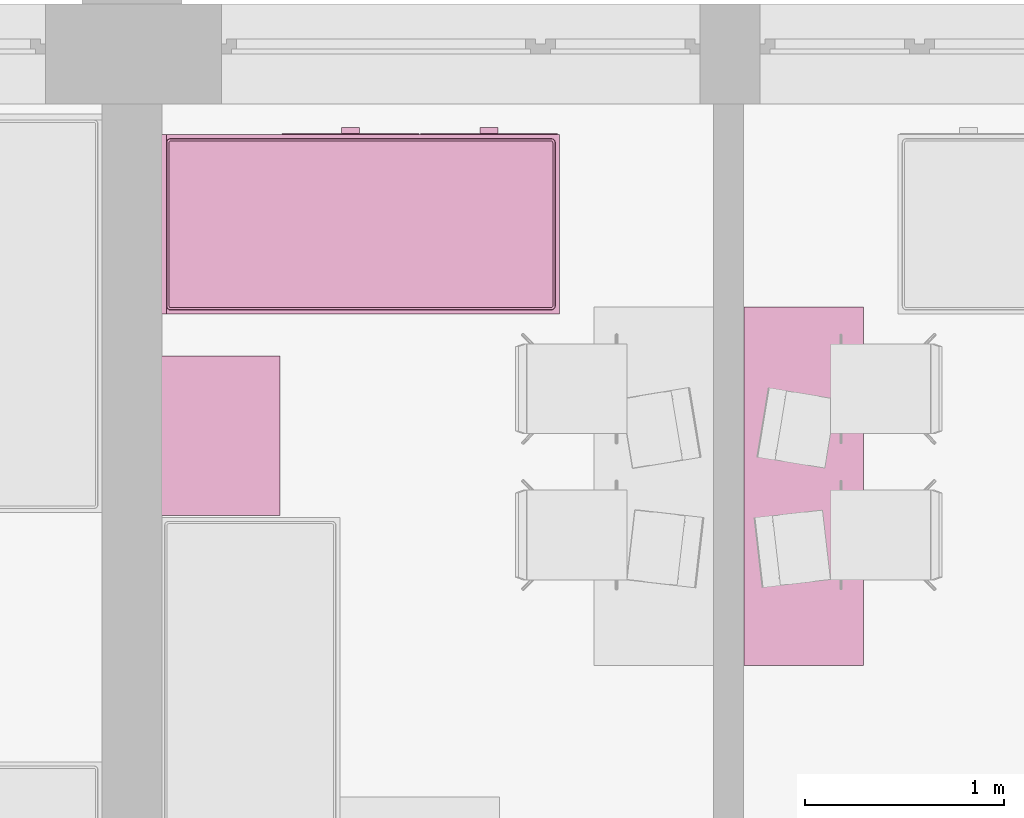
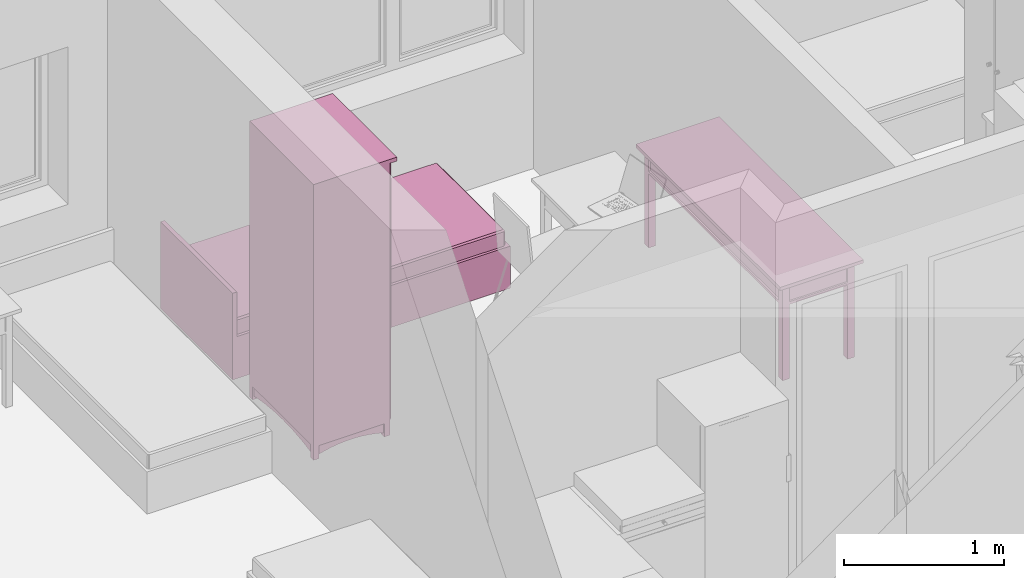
# One storey, part 93 of 172: 3 furnishings.
"""IFC2X3 building model written with IfcOpenShell, lengths in millimetres."""

from ifc_helpers import new_model, entity, si_unit, converted_unit, money_unit, direction, frame, origin_with_axes, place, context, subcontext, project, spatial, faceted_brep, source, transform, mapped, material, material_list, type_object, element, save


model = new_model("IFC2X3")

# Units and contexts
model_context = context("Model", 3, precision=1e-05, world=origin_with_axes(), true_north=direction((0.0, 1.0)))
body_context = subcontext(model_context, "Body", "Model", "MODEL_VIEW")
ifc_project = project(units=[si_unit("LENGTHUNIT", "METRE", prefix="MILLI"), si_unit("AREAUNIT", "SQUARE_METRE"), si_unit("VOLUMEUNIT", "CUBIC_METRE"), converted_unit("PLANEANGLEUNIT", "DEGREE", entity("IfcPlaneAngleMeasure", 0.0174532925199), si_unit("PLANEANGLEUNIT", "RADIAN"), dimensions=[0, 0, 0, 0, 0, 0, 0]), si_unit("SOLIDANGLEUNIT", "STERADIAN"), money_unit("USD"), converted_unit("TIMEUNIT", "Year", entity("IfcTimeMeasure", 31556926.0), si_unit("TIMEUNIT", "SECOND"), dimensions=[0, 0, 0, 0, 0, 0, 0]), si_unit("MASSUNIT", "GRAM"), si_unit("THERMODYNAMICTEMPERATUREUNIT", "DEGREE_CELSIUS"), si_unit("LUMINOUSINTENSITYUNIT", "LUMEN")], contexts=[model_context])

# Site, building, storey
site_placement = place(None, origin_with_axes())
site = spatial("IfcSite", under=ifc_project, at=site_placement, Name="Site", CompositionType="ELEMENT")
building_placement = place(site_placement, origin_with_axes())
building = spatial("IfcBuilding", under=site, at=building_placement, Name="Building", CompositionType="ELEMENT")
storey_placement = place(building_placement, frame((0.0, 0.0, 3200.0), z_axis=(0.0, 0.0, 1.0), x_axis=(1.0, 0.0, 0.0)))
storey = spatial("IfcBuildingStorey", under=building, at=storey_placement, Name="3KORRUS", CompositionType="ELEMENT", Elevation=3200.0)

# Furnishings
ifc_material = material(Name="Background")
ifc_material_list = material_list([ifc_material])
furnishing_element_type_1 = type_object("IfcFurnishingElementType", Name="Bed 19")
shared_shape_1 = source(origin_with_axes(), body_context, "Body", "Brep", [
    faceted_brep([(900.0, 1970.0, 0.0), (0.0, 1970.0, 0.0), (0.0, 2000.0, 0.0), (900.0, 2000.0, 0.0), (900.0, 1970.0, 660.0), (0.0, 1970.0, 660.0), (0.0, 2000.0, 660.0), (900.0, 2000.0, 660.0)], [[[0, 1, 2, 3]], [[1, 0, 4, 5]], [[2, 1, 5, 6]], [[3, 2, 6, 7]], [[0, 3, 7, 4]], [[5, 4, 7, 6]]]),
    faceted_brep([(900.0, 0.0, 0.0), (0.0, 0.0, 0.0), (0.0, 1970.0, 0.0), (900.0, 1970.0, 0.0), (900.0, 0.0, 320.0), (0.0, 0.0, 320.0), (0.0, 1970.0, 320.0), (900.0, 1970.0, 320.0)], [[[0, 1, 2, 3]], [[1, 0, 4, 5]], [[2, 1, 5, 6]], [[3, 2, 6, 7]], [[0, 3, 7, 4]], [[5, 4, 7, 6]]]),
    faceted_brep([(905.0, 10.0, 30.0), (900.0, 10.0, 30.0), (900.0, 695.0, 30.0), (905.0, 695.0, 30.0), (905.0, 10.0, 290.0), (900.0, 10.0, 290.0), (900.0, 695.0, 290.0), (905.0, 695.0, 290.0)], [[[0, 1, 2, 3]], [[1, 0, 4, 5]], [[2, 1, 5, 6]], [[3, 2, 6, 7]], [[0, 3, 7, 4]], [[5, 4, 7, 6]]]),
    faceted_brep([(935.0, 307.5, 150.0), (905.0, 307.5, 150.0), (905.0, 397.5, 150.0), (935.0, 397.5, 150.0), (935.0, 307.5, 170.0), (905.0, 307.5, 170.0), (905.0, 397.5, 170.0), (935.0, 397.5, 170.0)], [[[0, 1, 2, 3]], [[1, 0, 4, 5]], [[2, 1, 5, 6]], [[3, 2, 6, 7]], [[0, 3, 7, 4]], [[5, 4, 7, 6]]]),
    faceted_brep([(905.0, 705.0, 30.0), (900.0, 705.0, 30.0), (900.0, 1390.0, 30.0), (905.0, 1390.0, 30.0), (905.0, 705.0, 290.0), (900.0, 705.0, 290.0), (900.0, 1390.0, 290.0), (905.0, 1390.0, 290.0)], [[[0, 1, 2, 3]], [[1, 0, 4, 5]], [[2, 1, 5, 6]], [[3, 2, 6, 7]], [[0, 3, 7, 4]], [[5, 4, 7, 6]]]),
    faceted_brep([(935.0, 1002.5, 150.0), (905.0, 1002.5, 150.0), (905.0, 1092.5, 150.0), (935.0, 1092.5, 150.0), (935.0, 1002.5, 170.0), (905.0, 1002.5, 170.0), (905.0, 1092.5, 170.0), (935.0, 1092.5, 170.0)], [[[0, 1, 2, 3]], [[1, 0, 4, 5]], [[2, 1, 5, 6]], [[3, 2, 6, 7]], [[0, 3, 7, 4]], [[5, 4, 7, 6]]]),
    faceted_brep([(20.0, 40.0, 350.0), (20.0, 1950.0, 350.0), (21.522, 1957.654, 350.0), (25.858, 1964.142, 350.0), (32.346, 1968.478, 350.0), (40.0, 1970.0, 350.0), (860.0, 1970.0, 350.0), (867.654, 1968.478, 350.0), (874.142, 1964.142, 350.0), (878.478, 1957.654, 350.0), (880.0, 1950.0, 350.0), (880.0, 40.0, 350.0), (878.478, 32.346, 350.0), (874.142, 25.858, 350.0), (867.654, 21.522, 350.0), (860.0, 20.0, 350.0), (40.0, 20.0, 350.0), (32.346, 21.522, 350.0), (25.858, 25.858, 350.0), (21.522, 32.346, 350.0), (20.0, 40.0, 420.0), (20.0, 1950.0, 420.0), (21.522, 1957.654, 420.0), (25.858, 1964.142, 420.0), (32.346, 1968.478, 420.0), (40.0, 1970.0, 420.0), (860.0, 1970.0, 420.0), (867.654, 1968.478, 420.0), (874.142, 1964.142, 420.0), (878.478, 1957.654, 420.0), (880.0, 1950.0, 420.0), (880.0, 40.0, 420.0), (878.478, 32.346, 420.0), (874.142, 25.858, 420.0), (867.654, 21.522, 420.0), (860.0, 20.0, 420.0), (40.0, 20.0, 420.0), (32.346, 21.522, 420.0), (25.858, 25.858, 420.0), (21.522, 32.346, 420.0), (21.522, 40.15, 427.654), (21.522, 1949.85, 427.654), (22.956, 1957.06, 427.654), (26.955, 1963.045, 427.654), (32.94, 1967.044, 427.654), (40.15, 1968.478, 427.654), (859.85, 1968.478, 427.654), (867.06, 1967.044, 427.654), (873.045, 1963.045, 427.654), (877.044, 1957.06, 427.654), (878.478, 1949.85, 427.654), (878.478, 40.15, 427.654), (877.044, 32.94, 427.654), (873.045, 26.955, 427.654), (867.06, 22.956, 427.654), (859.85, 21.522, 427.654), (40.15, 21.522, 427.654), (32.94, 22.956, 427.654), (26.955, 26.955, 427.654), (22.956, 32.94, 427.654), (32.346, 41.216, 438.478), (32.346, 1948.784, 438.478), (33.152, 1952.836, 438.478), (34.759, 1955.241, 438.478), (37.164, 1956.848, 438.478), (41.216, 1957.654, 438.478), (858.784, 1957.654, 438.478), (862.836, 1956.848, 438.478), (865.241, 1955.241, 438.478), (866.848, 1952.836, 438.478), (867.654, 1948.784, 438.478), (867.654, 41.216, 438.478), (866.848, 37.164, 438.478), (865.241, 34.759, 438.478), (862.836, 33.152, 438.478), (858.784, 32.346, 438.478), (41.216, 32.346, 438.478), (37.164, 33.152, 438.478), (34.759, 34.759, 438.478), (33.152, 37.164, 438.478), (40.0, 41.97, 440.0), (40.0, 1948.03, 440.0), (40.327, 1949.673, 440.0), (40.0, 1950.0, 439.924), (41.97, 1950.0, 440.0), (858.03, 1950.0, 440.0), (859.673, 1949.673, 440.0), (860.0, 1950.0, 439.924), (860.0, 1948.03, 440.0), (860.0, 41.97, 440.0), (859.673, 40.327, 440.0), (860.0, 40.0, 439.924), (858.03, 40.0, 440.0), (41.97, 40.0, 440.0), (40.327, 40.327, 440.0), (40.0, 40.0, 439.924)], [[[0, 1, 2, 3, 4, 5, 6, 7, 8, 9, 10, 11, 12, 13, 14, 15, 16, 17, 18, 19]], [[1, 0, 20, 21]], [[2, 1, 21, 22]], [[3, 2, 22, 23]], [[4, 3, 23, 24]], [[5, 4, 24, 25]], [[6, 5, 25, 26]], [[7, 6, 26, 27]], [[8, 7, 27, 28]], [[9, 8, 28, 29]], [[10, 9, 29, 30]], [[11, 10, 30, 31]], [[12, 11, 31, 32]], [[13, 12, 32, 33]], [[14, 13, 33, 34]], [[15, 14, 34, 35]], [[16, 15, 35, 36]], [[17, 16, 36, 37]], [[18, 17, 37, 38]], [[19, 18, 38, 39]], [[0, 19, 39, 20]], [[21, 20, 40, 41]], [[22, 21, 41, 42]], [[23, 22, 42, 43]], [[24, 23, 43, 44]], [[25, 24, 44, 45]], [[26, 25, 45, 46]], [[27, 26, 46, 47]], [[28, 27, 47, 48]], [[29, 28, 48, 49]], [[30, 29, 49, 50]], [[31, 30, 50, 51]], [[32, 31, 51, 52]], [[33, 32, 52, 53]], [[34, 33, 53, 54]], [[35, 34, 54, 55]], [[36, 35, 55, 56]], [[37, 36, 56, 57]], [[38, 37, 57, 58]], [[39, 38, 58, 59]], [[20, 39, 59, 40]], [[41, 40, 60, 61]], [[42, 41, 61, 62]], [[43, 42, 62, 63]], [[44, 43, 63, 64]], [[45, 44, 64, 65]], [[46, 45, 65, 66]], [[47, 46, 66, 67]], [[48, 47, 67, 68]], [[49, 48, 68, 69]], [[50, 49, 69, 70]], [[51, 50, 70, 71]], [[52, 51, 71, 72]], [[53, 52, 72, 73]], [[54, 53, 73, 74]], [[55, 54, 74, 75]], [[56, 55, 75, 76]], [[57, 56, 76, 77]], [[58, 57, 77, 78]], [[59, 58, 78, 79]], [[40, 59, 79, 60]], [[61, 60, 80, 81]], [[62, 61, 81, 82, 83]], [[63, 62, 83]], [[64, 63, 83]], [[65, 64, 83, 82, 84]], [[66, 65, 84, 85]], [[67, 66, 85, 86, 87]], [[68, 67, 87]], [[69, 68, 87]], [[70, 69, 87, 86, 88]], [[71, 70, 88, 89]], [[72, 71, 89, 90, 91]], [[73, 72, 91]], [[74, 73, 91]], [[75, 74, 91, 90, 92]], [[76, 75, 92, 93]], [[77, 76, 93, 94, 95]], [[78, 77, 95]], [[79, 78, 95]], [[60, 79, 95, 94, 80]], [[81, 80, 94, 93, 92, 90, 89, 88, 86, 85, 84, 82]]]),
    faceted_brep([(20.0, 40.0, 350.0), (21.522, 32.346, 350.0), (25.858, 25.858, 350.0), (32.346, 21.522, 350.0), (40.0, 20.0, 350.0), (860.0, 20.0, 350.0), (867.654, 21.522, 350.0), (874.142, 25.858, 350.0), (878.478, 32.346, 350.0), (880.0, 40.0, 350.0), (880.0, 1950.0, 350.0), (878.478, 1957.654, 350.0), (874.142, 1964.142, 350.0), (867.654, 1968.478, 350.0), (860.0, 1970.0, 350.0), (40.0, 1970.0, 350.0), (32.346, 1968.478, 350.0), (25.858, 1964.142, 350.0), (21.522, 1957.654, 350.0), (20.0, 1950.0, 350.0), (20.0, 40.0, 320.0), (21.522, 32.346, 320.0), (25.858, 25.858, 320.0), (32.346, 21.522, 320.0), (40.0, 20.0, 320.0), (860.0, 20.0, 320.0), (867.654, 21.522, 320.0), (874.142, 25.858, 320.0), (878.478, 32.346, 320.0), (880.0, 40.0, 320.0), (880.0, 1950.0, 320.0), (878.478, 1957.654, 320.0), (874.142, 1964.142, 320.0), (867.654, 1968.478, 320.0), (860.0, 1970.0, 320.0), (40.0, 1970.0, 320.0), (32.346, 1968.478, 320.0), (25.858, 1964.142, 320.0), (21.522, 1957.654, 320.0), (20.0, 1950.0, 320.0)], [[[0, 1, 2, 3, 4, 5, 6, 7, 8, 9, 10, 11, 12, 13, 14, 15, 16, 17, 18, 19]], [[0, 20, 21, 1]], [[1, 21, 22, 2]], [[2, 22, 23, 3]], [[3, 23, 24, 4]], [[4, 24, 25, 5]], [[5, 25, 26, 6]], [[6, 26, 27, 7]], [[7, 27, 28, 8]], [[8, 28, 29, 9]], [[9, 29, 30, 10]], [[10, 30, 31, 11]], [[11, 31, 32, 12]], [[12, 32, 33, 13]], [[13, 33, 34, 14]], [[14, 34, 35, 15]], [[15, 35, 36, 16]], [[16, 36, 37, 17]], [[17, 37, 38, 18]], [[18, 38, 39, 19]], [[19, 39, 20, 0]], [[20, 39, 38, 37, 36, 35, 34, 33, 32, 31, 30, 29, 28, 27, 26, 25, 24, 23, 22, 21]]]),
])
furnishing_1_placement = place(storey_placement, frame((-39996.5850987, -6193.677052, 0.0), z_axis=(0.0, 0.0, 1.0), x_axis=(0.0, 1.0, 0.0)))
element("IfcFurnishingElement", 1, at=furnishing_1_placement, inside=storey, type_object=furnishing_element_type_1, material=ifc_material_list, Name="FU - 013", context=body_context, shape_type="MappedRepresentation", body=[
    mapped(shared_shape_1, transform((0.0, 0.0, 0.0))),
])
furnishing_element_type_2 = type_object("IfcFurnishingElementType", Name="Cupboard 19")
shared_shape_2 = source(origin_with_axes(), body_context, "Body", "Brep", [
    faceted_brep([(780.0, 600.0, 120.0), (780.0, 600.0, 2050.0), (780.0, 580.0, 2050.0), (780.0, 580.0, 120.0), (20.0, 600.0, 120.0), (20.0, 600.0, 2050.0), (20.0, 580.0, 2050.0), (20.0, 580.0, 120.0)], [[[0, 1, 2, 3]], [[4, 5, 1, 0]], [[1, 5, 6, 2]], [[3, 2, 6, 7]], [[0, 3, 7, 4]], [[7, 6, 5, 4]]]),
    faceted_brep([(0.0, 50.0, 100.0), (0.0, 600.0, 100.0), (20.0, 600.0, 100.0), (20.0, 50.0, 100.0), (0.0, 50.0, 2070.0), (0.0, 600.0, 2070.0), (20.0, 600.0, 2070.0), (20.0, 50.0, 2070.0)], [[[0, 1, 2, 3]], [[0, 4, 5, 1]], [[1, 5, 6, 2]], [[2, 6, 7, 3]], [[3, 7, 4, 0]], [[7, 6, 5, 4]]]),
    faceted_brep([(780.0, 50.0, 100.0), (780.0, 600.0, 100.0), (800.0, 600.0, 100.0), (800.0, 50.0, 100.0), (780.0, 50.0, 2070.0), (780.0, 600.0, 2070.0), (800.0, 600.0, 2070.0), (800.0, 50.0, 2070.0)], [[[0, 1, 2, 3]], [[0, 4, 5, 1]], [[1, 5, 6, 2]], [[2, 6, 7, 3]], [[3, 7, 4, 0]], [[7, 6, 5, 4]]]),
    faceted_brep([(20.0, 50.0, 100.0), (20.0, 600.0, 100.0), (780.0, 600.0, 100.0), (780.0, 50.0, 100.0), (20.0, 50.0, 120.0), (20.0, 600.0, 120.0), (780.0, 600.0, 120.0), (780.0, 50.0, 120.0)], [[[0, 1, 2, 3]], [[0, 4, 5, 1]], [[1, 5, 6, 2]], [[2, 6, 7, 3]], [[3, 7, 4, 0]], [[7, 6, 5, 4]]]),
    faceted_brep([(20.0, 50.0, 2050.0), (20.0, 600.0, 2050.0), (780.0, 600.0, 2050.0), (780.0, 50.0, 2050.0), (20.0, 50.0, 2070.0), (20.0, 600.0, 2070.0), (780.0, 600.0, 2070.0), (780.0, 50.0, 2070.0)], [[[0, 1, 2, 3]], [[0, 4, 5, 1]], [[1, 5, 6, 2]], [[2, 6, 7, 3]], [[3, 7, 4, 0]], [[7, 6, 5, 4]]]),
    faceted_brep([(0.0, 600.0, 2070.0), (0.0, 0.0, 2070.0), (0.0, 0.0, 2100.0), (0.0, 600.0, 2100.0), (800.0, 600.0, 2070.0), (800.0, 0.0, 2070.0), (800.0, 0.0, 2100.0), (800.0, 600.0, 2100.0)], [[[0, 1, 2, 3]], [[0, 4, 5, 1]], [[1, 5, 6, 2]], [[3, 2, 6, 7]], [[4, 0, 3, 7]], [[5, 4, 7, 6]]]),
    faceted_brep([(760.0, 590.0, 25.0), (760.0, 570.0, 25.0), (640.962, 570.0, 45.8), (640.962, 590.0, 45.8), (760.0, 590.0, 100.0), (760.0, 570.0, 100.0), (40.0, 570.0, 100.0), (40.0, 570.0, 25.0), (159.038, 570.0, 45.8), (279.23, 570.0, 58.32), (400.0, 570.0, 62.5), (520.77, 570.0, 58.32), (520.77, 590.0, 58.32), (400.0, 590.0, 62.5), (279.23, 590.0, 58.32), (159.038, 590.0, 45.8), (40.0, 590.0, 25.0), (40.0, 590.0, 100.0)], [[[0, 1, 2, 3]], [[4, 5, 1, 0]], [[1, 5, 6, 7, 8, 9, 10, 11, 2]], [[3, 2, 11, 12]], [[0, 3, 12, 13, 14, 15, 16, 17, 4]], [[17, 6, 5, 4]], [[16, 7, 6, 17]], [[15, 8, 7, 16]], [[14, 9, 8, 15]], [[13, 10, 9, 14]], [[12, 11, 10, 13]]]),
    faceted_brep([(760.0, 80.0, 25.0), (760.0, 60.0, 25.0), (640.962, 60.0, 45.8), (640.962, 80.0, 45.8), (760.0, 80.0, 100.0), (760.0, 60.0, 100.0), (40.0, 60.0, 100.0), (40.0, 60.0, 25.0), (159.038, 60.0, 45.8), (279.23, 60.0, 58.32), (400.0, 60.0, 62.5), (520.77, 60.0, 58.32), (520.77, 80.0, 58.32), (400.0, 80.0, 62.5), (279.23, 80.0, 58.32), (159.038, 80.0, 45.8), (40.0, 80.0, 25.0), (40.0, 80.0, 100.0)], [[[0, 1, 2, 3]], [[4, 5, 1, 0]], [[1, 5, 6, 7, 8, 9, 10, 11, 2]], [[3, 2, 11, 12]], [[0, 3, 12, 13, 14, 15, 16, 17, 4]], [[17, 6, 5, 4]], [[16, 7, 6, 17]], [[15, 8, 7, 16]], [[14, 9, 8, 15]], [[13, 10, 9, 14]], [[12, 11, 10, 13]]]),
    faceted_brep([(790.0, 90.0, 25.0), (770.0, 90.0, 25.0), (770.0, 141.266, 38.072), (790.0, 141.266, 38.072), (790.0, 90.0, 100.0), (770.0, 90.0, 100.0), (770.0, 560.0, 100.0), (770.0, 560.0, 25.0), (770.0, 508.734, 38.072), (770.0, 456.752, 47.92), (770.0, 404.257, 54.508), (770.0, 351.453, 57.808), (770.0, 298.547, 57.808), (770.0, 245.743, 54.508), (770.0, 193.248, 47.92), (790.0, 193.248, 47.92), (790.0, 245.743, 54.508), (790.0, 298.547, 57.808), (790.0, 351.453, 57.808), (790.0, 404.257, 54.508), (790.0, 456.752, 47.92), (790.0, 508.734, 38.072), (790.0, 560.0, 25.0), (790.0, 560.0, 100.0)], [[[0, 1, 2, 3]], [[4, 5, 1, 0]], [[1, 5, 6, 7, 8, 9, 10, 11, 12, 13, 14, 2]], [[3, 2, 14, 15]], [[0, 3, 15, 16, 17, 18, 19, 20, 21, 22, 23, 4]], [[23, 6, 5, 4]], [[22, 7, 6, 23]], [[21, 8, 7, 22]], [[20, 9, 8, 21]], [[19, 10, 9, 20]], [[18, 11, 10, 19]], [[17, 12, 11, 18]], [[16, 13, 12, 17]], [[15, 14, 13, 16]]]),
    faceted_brep([(30.0, 90.0, 25.0), (10.0, 90.0, 25.0), (10.0, 141.266, 38.072), (30.0, 141.266, 38.072), (30.0, 90.0, 100.0), (10.0, 90.0, 100.0), (10.0, 560.0, 100.0), (10.0, 560.0, 25.0), (10.0, 508.734, 38.072), (10.0, 456.752, 47.92), (10.0, 404.257, 54.508), (10.0, 351.453, 57.808), (10.0, 298.547, 57.808), (10.0, 245.743, 54.508), (10.0, 193.248, 47.92), (30.0, 193.248, 47.92), (30.0, 245.743, 54.508), (30.0, 298.547, 57.808), (30.0, 351.453, 57.808), (30.0, 404.257, 54.508), (30.0, 456.752, 47.92), (30.0, 508.734, 38.072), (30.0, 560.0, 25.0), (30.0, 560.0, 100.0)], [[[0, 1, 2, 3]], [[4, 5, 1, 0]], [[1, 5, 6, 7, 8, 9, 10, 11, 12, 13, 14, 2]], [[3, 2, 14, 15]], [[0, 3, 15, 16, 17, 18, 19, 20, 21, 22, 23, 4]], [[23, 6, 5, 4]], [[22, 7, 6, 23]], [[21, 8, 7, 22]], [[20, 9, 8, 21]], [[19, 10, 9, 20]], [[18, 11, 10, 19]], [[17, 12, 11, 18]], [[16, 13, 12, 17]], [[15, 14, 13, 16]]]),
    faceted_brep([(760.0, 560.0, 0.0), (760.0, 560.0, 100.0), (760.0, 600.0, 100.0), (760.0, 600.0, 0.0), (800.0, 560.0, 0.0), (800.0, 560.0, 100.0), (800.0, 600.0, 100.0), (800.0, 600.0, 0.0)], [[[0, 1, 2, 3]], [[4, 5, 1, 0]], [[1, 5, 6, 2]], [[3, 2, 6, 7]], [[0, 3, 7, 4]], [[7, 6, 5, 4]]]),
    faceted_brep([(0.0, 560.0, 0.0), (0.0, 560.0, 100.0), (0.0, 600.0, 100.0), (0.0, 600.0, 0.0), (40.0, 560.0, 0.0), (40.0, 560.0, 100.0), (40.0, 600.0, 100.0), (40.0, 600.0, 0.0)], [[[0, 1, 2, 3]], [[4, 5, 1, 0]], [[1, 5, 6, 2]], [[3, 2, 6, 7]], [[0, 3, 7, 4]], [[7, 6, 5, 4]]]),
    faceted_brep([(760.0, 50.0, 0.0), (760.0, 50.0, 100.0), (760.0, 90.0, 100.0), (760.0, 90.0, 0.0), (800.0, 50.0, 0.0), (800.0, 50.0, 100.0), (800.0, 90.0, 100.0), (800.0, 90.0, 0.0)], [[[0, 1, 2, 3]], [[4, 5, 1, 0]], [[1, 5, 6, 2]], [[3, 2, 6, 7]], [[0, 3, 7, 4]], [[7, 6, 5, 4]]]),
    faceted_brep([(0.0, 50.0, 0.0), (0.0, 50.0, 100.0), (0.0, 90.0, 100.0), (0.0, 90.0, 0.0), (40.0, 50.0, 0.0), (40.0, 50.0, 100.0), (40.0, 90.0, 100.0), (40.0, 90.0, 0.0)], [[[0, 1, 2, 3]], [[4, 5, 1, 0]], [[1, 5, 6, 2]], [[3, 2, 6, 7]], [[0, 3, 7, 4]], [[7, 6, 5, 4]]]),
    faceted_brep([(780.0, 580.0, 587.5), (780.0, 580.0, 607.5), (780.0, 50.0, 607.5), (780.0, 50.0, 587.5), (20.0, 580.0, 587.5), (20.0, 580.0, 607.5), (20.0, 50.0, 607.5), (20.0, 50.0, 587.5)], [[[0, 1, 2, 3]], [[4, 5, 1, 0]], [[1, 5, 6, 2]], [[3, 2, 6, 7]], [[0, 3, 7, 4]], [[7, 6, 5, 4]]]),
    faceted_brep([(780.0, 580.0, 1075.0), (780.0, 580.0, 1095.0), (780.0, 50.0, 1095.0), (780.0, 50.0, 1075.0), (20.0, 580.0, 1075.0), (20.0, 580.0, 1095.0), (20.0, 50.0, 1095.0), (20.0, 50.0, 1075.0)], [[[0, 1, 2, 3]], [[4, 5, 1, 0]], [[1, 5, 6, 2]], [[3, 2, 6, 7]], [[0, 3, 7, 4]], [[7, 6, 5, 4]]]),
    faceted_brep([(780.0, 580.0, 1562.5), (780.0, 580.0, 1582.5), (780.0, 50.0, 1582.5), (780.0, 50.0, 1562.5), (20.0, 580.0, 1562.5), (20.0, 580.0, 1582.5), (20.0, 50.0, 1582.5), (20.0, 50.0, 1562.5)], [[[0, 1, 2, 3]], [[4, 5, 1, 0]], [[1, 5, 6, 2]], [[3, 2, 6, 7]], [[0, 3, 7, 4]], [[7, 6, 5, 4]]]),
    faceted_brep([(789.5, 50.0, 110.5), (400.5, 50.0, 110.5), (400.5, 50.0, 2059.5), (789.5, 50.0, 2059.5), (789.5, 40.0, 110.5), (400.5, 40.0, 110.5), (400.5, 40.0, 2059.5), (789.5, 40.0, 2059.5), (779.5, 30.0, 120.5), (410.5, 30.0, 120.5), (410.5, 30.0, 2049.5), (779.5, 30.0, 2049.5)], [[[0, 1, 2, 3]], [[0, 4, 5, 1]], [[1, 5, 6, 2]], [[2, 6, 7, 3]], [[3, 7, 4, 0]], [[4, 8, 9, 5]], [[5, 9, 10, 6]], [[6, 10, 11, 7]], [[7, 11, 8, 4]], [[10, 9, 8, 11]]]),
    faceted_brep([(399.5, 50.0, 110.5), (10.5, 50.0, 110.5), (10.5, 50.0, 2059.5), (399.5, 50.0, 2059.5), (399.5, 40.0, 110.5), (10.5, 40.0, 110.5), (10.5, 40.0, 2059.5), (399.5, 40.0, 2059.5), (389.5, 30.0, 120.5), (20.5, 30.0, 120.5), (20.5, 30.0, 2049.5), (389.5, 30.0, 2049.5)], [[[0, 1, 2, 3]], [[0, 4, 5, 1]], [[1, 5, 6, 2]], [[2, 6, 7, 3]], [[3, 7, 4, 0]], [[4, 8, 9, 5]], [[5, 9, 10, 6]], [[6, 10, 11, 7]], [[7, 11, 8, 4]], [[10, 9, 8, 11]]]),
    faceted_brep([(339.608, 30.0, 954.0), (338.0, 30.0, 960.0), (339.608, 30.0, 966.0), (344.0, 30.0, 970.392), (350.0, 30.0, 972.0), (356.0, 30.0, 970.392), (360.392, 30.0, 966.0), (362.0, 30.0, 960.0), (360.392, 30.0, 954.0), (356.0, 30.0, 949.608), (350.0, 30.0, 948.0), (344.0, 30.0, 949.608), (339.608, 5.0, 954.0), (338.0, 5.0, 960.0), (339.608, 5.0, 966.0), (344.0, 5.0, 970.392), (350.0, 5.0, 972.0), (356.0, 5.0, 970.392), (360.392, 5.0, 966.0), (362.0, 5.0, 960.0), (360.392, 5.0, 954.0), (356.0, 5.0, 949.608), (350.0, 5.0, 948.0), (344.0, 5.0, 949.608)], [[[0, 1, 2, 3, 4, 5, 6, 7, 8, 9, 10, 11]], [[0, 12, 13, 1]], [[1, 13, 14, 2]], [[2, 14, 15, 3]], [[3, 15, 16, 4]], [[4, 16, 17, 5]], [[5, 17, 18, 6]], [[6, 18, 19, 7]], [[7, 19, 20, 8]], [[8, 20, 21, 9]], [[9, 21, 22, 10]], [[10, 22, 23, 11]], [[11, 23, 12, 0]], [[12, 23, 22, 21, 20, 19, 18, 17, 16, 15, 14, 13]]]),
    faceted_brep([(460.392, 30.0, 954.0), (456.0, 30.0, 949.608), (450.0, 30.0, 948.0), (444.0, 30.0, 949.608), (439.608, 30.0, 954.0), (438.0, 30.0, 960.0), (439.608, 30.0, 966.0), (444.0, 30.0, 970.392), (450.0, 30.0, 972.0), (456.0, 30.0, 970.392), (460.392, 30.0, 966.0), (462.0, 30.0, 960.0), (460.392, 5.0, 954.0), (456.0, 5.0, 949.608), (450.0, 5.0, 948.0), (444.0, 5.0, 949.608), (439.608, 5.0, 954.0), (438.0, 5.0, 960.0), (439.608, 5.0, 966.0), (444.0, 5.0, 970.392), (450.0, 5.0, 972.0), (456.0, 5.0, 970.392), (460.392, 5.0, 966.0), (462.0, 5.0, 960.0)], [[[0, 1, 2, 3, 4, 5, 6, 7, 8, 9, 10, 11]], [[1, 0, 12, 13]], [[2, 1, 13, 14]], [[3, 2, 14, 15]], [[4, 3, 15, 16]], [[5, 4, 16, 17]], [[6, 5, 17, 18]], [[7, 6, 18, 19]], [[8, 7, 19, 20]], [[9, 8, 20, 21]], [[10, 9, 21, 22]], [[11, 10, 22, 23]], [[0, 11, 23, 12]], [[12, 23, 22, 21, 20, 19, 18, 17, 16, 15, 14, 13]]]),
])
furnishing_2_placement = place(storey_placement, frame((-41396.5850987, -7203.34269435, 0.0), z_axis=(0.0, 0.0, 1.0), x_axis=(0.0, 1.0, 0.0)))
element("IfcFurnishingElement", 2, at=furnishing_2_placement, inside=storey, type_object=furnishing_element_type_2, material=ifc_material_list, Name="FU - 014", context=body_context, shape_type="MappedRepresentation", body=[
    mapped(shared_shape_2, transform((0.0, 0.0, 0.0))),
])
furnishing_element_type_3 = type_object("IfcFurnishingElementType", Name="Rectangular Table 01 19")
shared_shape_3 = source(origin_with_axes(), body_context, "Body", "Brep", [
    faceted_brep([(-90.0, 40.0, 0.0), (-90.0, 90.0, 0.0), (-40.0, 90.0, 0.0), (-40.0, 40.0, 0.0), (-90.0, 40.0, 725.0), (-90.0, 90.0, 725.0), (-40.0, 90.0, 725.0), (-40.0, 40.0, 725.0)], [[[0, 1, 2, 3]], [[0, 4, 5, 1]], [[1, 5, 6, 2]], [[2, 6, 7, 3]], [[3, 7, 4, 0]], [[7, 6, 5, 4]]]),
    faceted_brep([(-1760.0, 40.0, 0.0), (-1760.0, 90.0, 0.0), (-1710.0, 90.0, 0.0), (-1710.0, 40.0, 0.0), (-1760.0, 40.0, 725.0), (-1760.0, 90.0, 725.0), (-1710.0, 90.0, 725.0), (-1710.0, 40.0, 725.0)], [[[0, 1, 2, 3]], [[0, 4, 5, 1]], [[1, 5, 6, 2]], [[2, 6, 7, 3]], [[3, 7, 4, 0]], [[7, 6, 5, 4]]]),
    faceted_brep([(-90.0, 510.0, 0.0), (-90.0, 560.0, 0.0), (-40.0, 560.0, 0.0), (-40.0, 510.0, 0.0), (-90.0, 510.0, 725.0), (-90.0, 560.0, 725.0), (-40.0, 560.0, 725.0), (-40.0, 510.0, 725.0)], [[[0, 1, 2, 3]], [[0, 4, 5, 1]], [[1, 5, 6, 2]], [[2, 6, 7, 3]], [[3, 7, 4, 0]], [[7, 6, 5, 4]]]),
    faceted_brep([(-1760.0, 510.0, 0.0), (-1760.0, 560.0, 0.0), (-1710.0, 560.0, 0.0), (-1710.0, 510.0, 0.0), (-1760.0, 510.0, 725.0), (-1760.0, 560.0, 725.0), (-1710.0, 560.0, 725.0), (-1710.0, 510.0, 725.0)], [[[0, 1, 2, 3]], [[0, 4, 5, 1]], [[1, 5, 6, 2]], [[2, 6, 7, 3]], [[3, 7, 4, 0]], [[7, 6, 5, 4]]]),
    faceted_brep([(-1760.0, 40.0, 565.0), (-1760.0, 560.0, 565.0), (-40.0, 560.0, 565.0), (-40.0, 40.0, 565.0), (-1760.0, 40.0, 585.0), (-1760.0, 560.0, 585.0), (-40.0, 560.0, 585.0), (-40.0, 40.0, 585.0)], [[[0, 1, 2, 3]], [[0, 4, 5, 1]], [[1, 5, 6, 2]], [[2, 6, 7, 3]], [[3, 7, 4, 0]], [[7, 6, 5, 4]]]),
    faceted_brep([(-1710.0, 52.5, 585.0), (-1710.0, 77.5, 585.0), (-90.0, 77.5, 585.0), (-90.0, 52.5, 585.0), (-1710.0, 52.5, 745.0), (-1710.0, 77.5, 745.0), (-90.0, 77.5, 745.0), (-90.0, 52.5, 745.0)], [[[0, 1, 2, 3]], [[0, 4, 5, 1]], [[1, 5, 6, 2]], [[2, 6, 7, 3]], [[3, 7, 4, 0]], [[7, 6, 5, 4]]]),
    faceted_brep([(-77.5, 90.0, 585.0), (-77.5, 510.0, 585.0), (-52.5, 510.0, 585.0), (-52.5, 90.0, 585.0), (-77.5, 90.0, 745.0), (-77.5, 510.0, 745.0), (-52.5, 510.0, 745.0), (-52.5, 90.0, 745.0)], [[[0, 1, 2, 3]], [[0, 4, 5, 1]], [[1, 5, 6, 2]], [[2, 6, 7, 3]], [[3, 7, 4, 0]], [[7, 6, 5, 4]]]),
    faceted_brep([(-90.0, 547.5, 585.0), (-90.0, 522.5, 585.0), (-1710.0, 522.5, 585.0), (-1710.0, 547.5, 585.0), (-90.0, 547.5, 745.0), (-90.0, 522.5, 745.0), (-1710.0, 522.5, 745.0), (-1710.0, 547.5, 745.0)], [[[0, 1, 2, 3]], [[0, 4, 5, 1]], [[1, 5, 6, 2]], [[2, 6, 7, 3]], [[3, 7, 4, 0]], [[7, 6, 5, 4]]]),
    faceted_brep([(-1722.5, 510.0, 585.0), (-1722.5, 90.0, 585.0), (-1747.5, 90.0, 585.0), (-1747.5, 510.0, 585.0), (-1722.5, 510.0, 745.0), (-1722.5, 90.0, 745.0), (-1747.5, 90.0, 745.0), (-1747.5, 510.0, 745.0)], [[[0, 1, 2, 3]], [[0, 4, 5, 1]], [[1, 5, 6, 2]], [[2, 6, 7, 3]], [[3, 7, 4, 0]], [[7, 6, 5, 4]]]),
    faceted_brep([(-897.5, 40.0, 585.0), (-897.5, 60.0, 585.0), (-95.0, 60.0, 585.0), (-95.0, 40.0, 585.0), (-897.5, 40.0, 745.0), (-897.5, 60.0, 745.0), (-95.0, 60.0, 745.0), (-95.0, 40.0, 745.0)], [[[0, 1, 2, 3]], [[0, 4, 5, 1]], [[1, 5, 6, 2]], [[2, 6, 7, 3]], [[3, 7, 4, 0]], [[7, 6, 5, 4]]]),
    faceted_brep([(-1705.0, 40.0, 585.0), (-1705.0, 60.0, 585.0), (-902.5, 60.0, 585.0), (-902.5, 40.0, 585.0), (-1705.0, 40.0, 745.0), (-1705.0, 60.0, 745.0), (-902.5, 60.0, 745.0), (-902.5, 40.0, 745.0)], [[[0, 1, 2, 3]], [[0, 4, 5, 1]], [[1, 5, 6, 2]], [[2, 6, 7, 3]], [[3, 7, 4, 0]], [[7, 6, 5, 4]]]),
    faceted_brep([(-504.91, 40.0, 660.0), (-506.25, 40.0, 665.0), (-504.91, 40.0, 670.0), (-501.25, 40.0, 673.66), (-496.25, 40.0, 675.0), (-491.25, 40.0, 673.66), (-487.59, 40.0, 670.0), (-486.25, 40.0, 665.0), (-487.59, 40.0, 660.0), (-491.25, 40.0, 656.34), (-496.25, 40.0, 655.0), (-501.25, 40.0, 656.34), (-504.91, 25.0, 660.0), (-506.25, 25.0, 665.0), (-504.91, 25.0, 670.0), (-501.25, 25.0, 673.66), (-496.25, 25.0, 675.0), (-491.25, 25.0, 673.66), (-487.59, 25.0, 670.0), (-486.25, 25.0, 665.0), (-487.59, 25.0, 660.0), (-491.25, 25.0, 656.34), (-496.25, 25.0, 655.0), (-501.25, 25.0, 656.34)], [[[0, 1, 2, 3, 4, 5, 6, 7, 8, 9, 10, 11]], [[0, 12, 13, 1]], [[1, 13, 14, 2]], [[2, 14, 15, 3]], [[3, 15, 16, 4]], [[4, 16, 17, 5]], [[5, 17, 18, 6]], [[6, 18, 19, 7]], [[7, 19, 20, 8]], [[8, 20, 21, 9]], [[9, 21, 22, 10]], [[10, 22, 23, 11]], [[11, 23, 12, 0]], [[12, 23, 22, 21, 20, 19, 18, 17, 16, 15, 14, 13]]]),
    faceted_brep([(-506.25, 12.01, 665.0), (-504.91, 12.01, 660.0), (-496.25, 10.0, 665.0), (-513.571, 17.5, 665.0), (-511.25, 17.5, 656.34), (-501.25, 12.01, 656.34), (-504.91, 12.01, 670.0), (-516.25, 25.0, 665.0), (-513.571, 25.0, 655.0), (-504.91, 17.5, 650.0), (-511.25, 17.5, 673.66), (-496.25, 12.01, 655.0), (-501.25, 12.01, 673.66), (-513.571, 25.0, 675.0), (-506.25, 25.0, 682.321), (-496.25, 25.0, 685.0), (-486.25, 25.0, 682.321), (-478.929, 25.0, 675.0), (-476.25, 25.0, 665.0), (-478.929, 25.0, 655.0), (-486.25, 25.0, 647.679), (-496.25, 25.0, 645.0), (-506.25, 25.0, 647.679), (-496.25, 17.5, 647.679), (-504.91, 17.5, 680.0), (-491.25, 12.01, 656.34), (-496.25, 12.01, 675.0), (-496.25, 17.5, 682.321), (-487.59, 17.5, 680.0), (-481.25, 17.5, 673.66), (-478.929, 17.5, 665.0), (-481.25, 17.5, 656.34), (-487.59, 17.5, 650.0), (-487.59, 12.01, 660.0), (-491.25, 12.01, 673.66), (-487.59, 12.01, 670.0), (-486.25, 12.01, 665.0)], [[[0, 1, 2]], [[3, 4, 1, 0]], [[1, 5, 2]], [[6, 0, 2]], [[7, 8, 4, 3]], [[4, 9, 5, 1]], [[10, 3, 0, 6]], [[5, 11, 2]], [[12, 6, 2]], [[8, 7, 13, 14, 15, 16, 17, 18, 19, 20, 21, 22]], [[8, 22, 9, 4]], [[13, 7, 3, 10]], [[9, 23, 11, 5]], [[24, 10, 6, 12]], [[11, 25, 2]], [[26, 12, 2]], [[14, 13, 10, 24]], [[15, 14, 24, 27]], [[16, 15, 27, 28]], [[17, 16, 28, 29]], [[18, 17, 29, 30]], [[19, 18, 30, 31]], [[20, 19, 31, 32]], [[21, 20, 32, 23]], [[22, 21, 23, 9]], [[23, 32, 25, 11]], [[27, 24, 12, 26]], [[25, 33, 2]], [[34, 26, 2]], [[28, 27, 26, 34]], [[29, 28, 34, 35]], [[30, 29, 35, 36]], [[31, 30, 36, 33]], [[32, 31, 33, 25]], [[33, 36, 2]], [[35, 34, 2]], [[36, 35, 2]]]),
    faceted_brep([(-1312.41, 40.0, 660.0), (-1313.75, 40.0, 665.0), (-1312.41, 40.0, 670.0), (-1308.75, 40.0, 673.66), (-1303.75, 40.0, 675.0), (-1298.75, 40.0, 673.66), (-1295.09, 40.0, 670.0), (-1293.75, 40.0, 665.0), (-1295.09, 40.0, 660.0), (-1298.75, 40.0, 656.34), (-1303.75, 40.0, 655.0), (-1308.75, 40.0, 656.34), (-1312.41, 25.0, 660.0), (-1313.75, 25.0, 665.0), (-1312.41, 25.0, 670.0), (-1308.75, 25.0, 673.66), (-1303.75, 25.0, 675.0), (-1298.75, 25.0, 673.66), (-1295.09, 25.0, 670.0), (-1293.75, 25.0, 665.0), (-1295.09, 25.0, 660.0), (-1298.75, 25.0, 656.34), (-1303.75, 25.0, 655.0), (-1308.75, 25.0, 656.34)], [[[0, 1, 2, 3, 4, 5, 6, 7, 8, 9, 10, 11]], [[0, 12, 13, 1]], [[1, 13, 14, 2]], [[2, 14, 15, 3]], [[3, 15, 16, 4]], [[4, 16, 17, 5]], [[5, 17, 18, 6]], [[6, 18, 19, 7]], [[7, 19, 20, 8]], [[8, 20, 21, 9]], [[9, 21, 22, 10]], [[10, 22, 23, 11]], [[11, 23, 12, 0]], [[12, 23, 22, 21, 20, 19, 18, 17, 16, 15, 14, 13]]]),
    faceted_brep([(-1313.75, 12.01, 665.0), (-1312.41, 12.01, 660.0), (-1303.75, 10.0, 665.0), (-1321.071, 17.5, 665.0), (-1318.75, 17.5, 656.34), (-1308.75, 12.01, 656.34), (-1312.41, 12.01, 670.0), (-1323.75, 25.0, 665.0), (-1321.071, 25.0, 655.0), (-1312.41, 17.5, 650.0), (-1318.75, 17.5, 673.66), (-1303.75, 12.01, 655.0), (-1308.75, 12.01, 673.66), (-1321.071, 25.0, 675.0), (-1313.75, 25.0, 682.321), (-1303.75, 25.0, 685.0), (-1293.75, 25.0, 682.321), (-1286.429, 25.0, 675.0), (-1283.75, 25.0, 665.0), (-1286.429, 25.0, 655.0), (-1293.75, 25.0, 647.679), (-1303.75, 25.0, 645.0), (-1313.75, 25.0, 647.679), (-1303.75, 17.5, 647.679), (-1312.41, 17.5, 680.0), (-1298.75, 12.01, 656.34), (-1303.75, 12.01, 675.0), (-1303.75, 17.5, 682.321), (-1295.09, 17.5, 680.0), (-1288.75, 17.5, 673.66), (-1286.429, 17.5, 665.0), (-1288.75, 17.5, 656.34), (-1295.09, 17.5, 650.0), (-1295.09, 12.01, 660.0), (-1298.75, 12.01, 673.66), (-1295.09, 12.01, 670.0), (-1293.75, 12.01, 665.0)], [[[0, 1, 2]], [[3, 4, 1, 0]], [[1, 5, 2]], [[6, 0, 2]], [[7, 8, 4, 3]], [[4, 9, 5, 1]], [[10, 3, 0, 6]], [[5, 11, 2]], [[12, 6, 2]], [[8, 7, 13, 14, 15, 16, 17, 18, 19, 20, 21, 22]], [[8, 22, 9, 4]], [[13, 7, 3, 10]], [[9, 23, 11, 5]], [[24, 10, 6, 12]], [[11, 25, 2]], [[26, 12, 2]], [[14, 13, 10, 24]], [[15, 14, 24, 27]], [[16, 15, 27, 28]], [[17, 16, 28, 29]], [[18, 17, 29, 30]], [[19, 18, 30, 31]], [[20, 19, 31, 32]], [[21, 20, 32, 23]], [[22, 21, 23, 9]], [[23, 32, 25, 11]], [[27, 24, 12, 26]], [[25, 33, 2]], [[34, 26, 2]], [[28, 27, 26, 34]], [[29, 28, 34, 35]], [[30, 29, 35, 36]], [[31, 30, 36, 33]], [[32, 31, 33, 25]], [[33, 36, 2]], [[35, 34, 2]], [[36, 35, 2]]]),
    faceted_brep([(-1800.0, 0.0, 725.0), (-1800.0, 600.0, 725.0), (0.0, 600.0, 725.0), (0.0, 0.0, 725.0), (-1800.0, 0.0, 750.0), (-1800.0, 600.0, 750.0), (0.0, 600.0, 750.0), (0.0, 0.0, 750.0)], [[[0, 1, 2, 3]], [[0, 4, 5, 1]], [[1, 5, 6, 2]], [[2, 6, 7, 3]], [[3, 7, 4, 0]], [[7, 6, 5, 4]]]),
])
furnishing_3_placement = place(storey_placement, frame((-38471.1382791, -6157.26955348, 0.0), z_axis=(0.0, 0.0, 1.0), x_axis=(0.0, 1.0, 0.0)))
element("IfcFurnishingElement", 3, at=furnishing_3_placement, inside=storey, type_object=furnishing_element_type_3, material=ifc_material_list, Name="FU - 011", context=body_context, shape_type="MappedRepresentation", body=[
    mapped(shared_shape_3, transform((0.0, 0.0, 0.0))),
])

save(model, "model.ifc")
